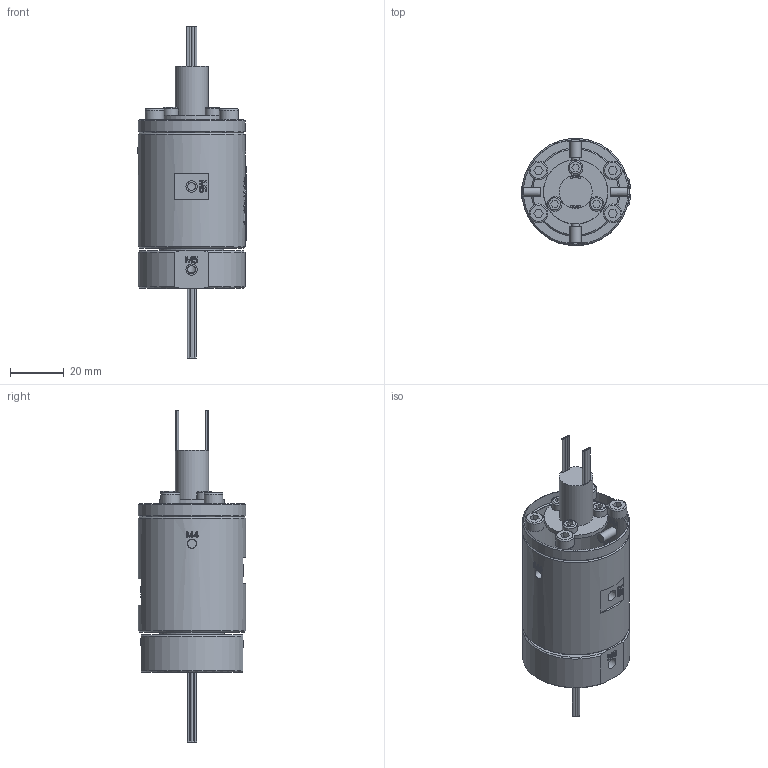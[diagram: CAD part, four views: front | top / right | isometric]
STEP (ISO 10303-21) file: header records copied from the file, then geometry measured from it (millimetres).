
FILE_DESCRIPTION(/* description */ (''),/* implementation_level */ '2;1');
FILE_NAME(/* name */ 'HQ02005-08M.stp',/* time_stamp */ '2025-09-01T09:51:39+08:00',/* author */ (''),/* organization */ (''),/* preprocessor_version */ 'ST-DEVELOPER v16.7',/* originating_system */ 'SIEMENS PLM Software NX 12.0',/* authorisation */ '');
FILE_SCHEMA (('AUTOMOTIVE_DESIGN { 1 0 10303 214 3 1 1 1 }'));
Length unit declared in the file: millimetre
Products named in the file (1): Admi1DF097DFvvt1
Bounding box: 40.68 x 40 x 123.9 mm (x, y, z)
Volume: 80430.6 mm3; surface area: 16395.4 mm2
Topology: 1 solids, 9 shells, 1013 faces, 2686 edges, 1788 vertices
Faces by surface type: plane 480, extrusion 385, cylinder 78, bspline 42, cone 21, torus 7
Full cylindrical faces by diameter (mm): 0.8 x16, 3 x7, 3.4 x9, 4 x6, 4.1 x2, 4.2 x6, 5 x1, 5.5 x3, 6 x1, 7 x4, 12.4 x1, 23.9 x1, 24 x1, 32 x1, 40 x2
Entity records: 37572 total; most frequent: CARTESIAN_POINT 16108, ORIENTED_EDGE 5116, DIRECTION 2743, EDGE_CURVE 2558, B_SPLINE_CURVE_WITH_KNOTS 2082, VERTEX_POINT 1751, EDGE_LOOP 1217, ADVANCED_FACE 1013
